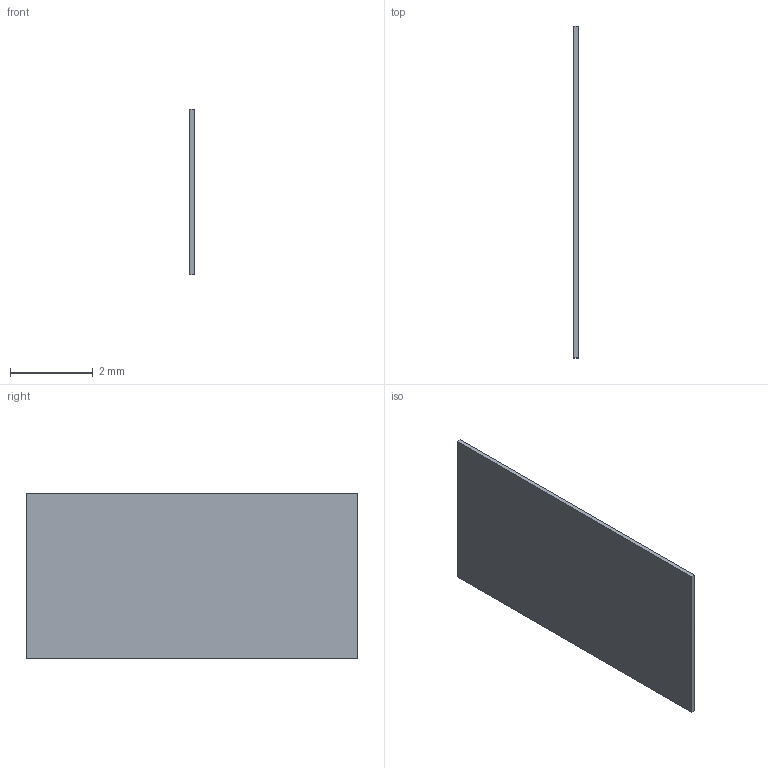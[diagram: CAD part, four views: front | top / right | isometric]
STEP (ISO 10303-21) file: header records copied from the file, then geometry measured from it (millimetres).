
FILE_DESCRIPTION(('Open CASCADE Model'),'2;1');
FILE_NAME('front_grip_PSA_patch_0.10_4','2026-09-04T19:55:25',('Author') ,('Open CASCADE'),'Open CASCADE STEP processor 7.8','build123d', 'Unknown');
FILE_SCHEMA(('AUTOMOTIVE_DESIGN { 1 0 10303 214 1 1 1 1 }'));
Length unit declared in the file: millimetre
Products named in the file (2): =>[0:1:1:2]; front_grip_PSA_patch_0.10_4
Assembly tree (1 placements, depth 2):
  =>[0:1:1:2]
    front_grip_PSA_patch_0.10_4
Bounding box: 0.1 x 8 x 4 mm (x, y, z)
Volume: 3.2 mm3; surface area: 66.4 mm2
Topology: 1 solids, 1 shells, 6 faces, 12 edges, 8 vertices
Faces by surface type: plane 6
Entity records: 349 total; most frequent: CARTESIAN_POINT 52, DIRECTION 52, LINE 36, VECTOR 36, ORIENTED_EDGE 24, PCURVE 24, DEFINITIONAL_REPRESENTATION 24, EDGE_CURVE 12
